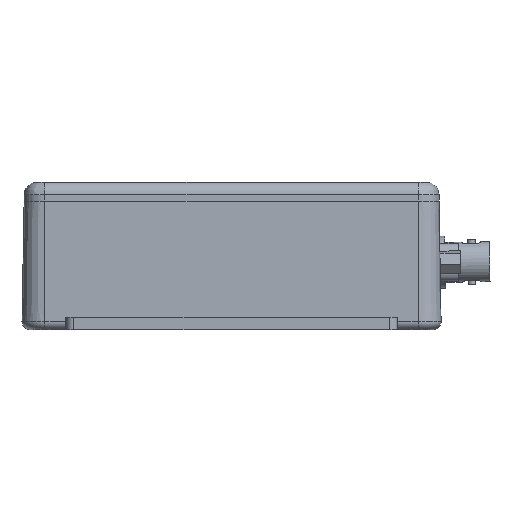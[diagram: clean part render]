
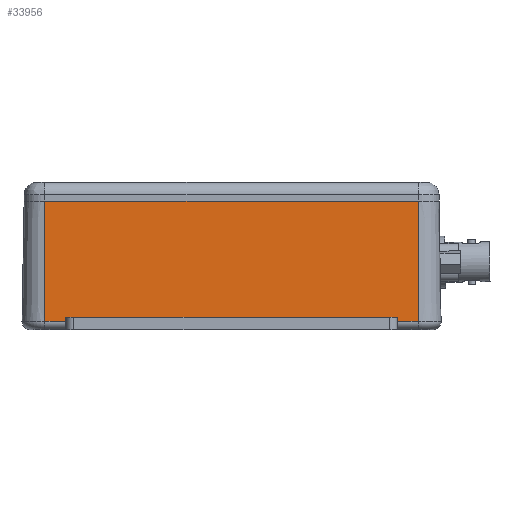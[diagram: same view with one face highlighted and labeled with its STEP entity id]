
A CAD part, left-side view. The second image highlights one B-rep face of the part: STEP entity #33956.
In plain terms, the highlighted planar face has unit normal (-1, 0, 0.018).
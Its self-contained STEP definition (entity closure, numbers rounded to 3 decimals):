
#3862=LINE('',#58030,#6702);
#4205=LINE('',#59684,#7045);
#4206=LINE('',#59686,#7046);
#4207=LINE('',#59687,#7047);
#4208=LINE('',#59689,#7048);
#4209=LINE('',#59691,#7049);
#4210=LINE('',#59693,#7050);
#4211=LINE('',#59694,#7051);
#6702=VECTOR('',#40832,10.);
#7045=VECTOR('',#42101,10.);
#7046=VECTOR('',#42102,10.);
#7047=VECTOR('',#42103,10.);
#7048=VECTOR('',#42104,10.);
#7049=VECTOR('',#42105,10.);
#7050=VECTOR('',#42106,10.);
#7051=VECTOR('',#42107,10.);
#8236=PLANE('',#35916);
#10489=FACE_OUTER_BOUND('',#12615,.T.);
#12615=EDGE_LOOP('',(#29139,#29140,#29141,#29142,#29143,#29144,#29145,#29146));
#15669=VERTEX_POINT('',#58023);
#15671=VERTEX_POINT('',#58029);
#16130=VERTEX_POINT('',#59682);
#16131=VERTEX_POINT('',#59683);
#16132=VERTEX_POINT('',#59685);
#16133=VERTEX_POINT('',#59688);
#16134=VERTEX_POINT('',#59690);
#16135=VERTEX_POINT('',#59692);
#19916=EDGE_CURVE('',#15671,#15669,#3862,.T.);
#20526=EDGE_CURVE('',#16130,#16131,#4205,.T.);
#20527=EDGE_CURVE('',#16132,#16131,#4206,.T.);
#20528=EDGE_CURVE('',#15671,#16132,#4207,.T.);
#20529=EDGE_CURVE('',#16133,#15669,#4208,.T.);
#20530=EDGE_CURVE('',#16134,#16133,#4209,.T.);
#20531=EDGE_CURVE('',#16134,#16135,#4210,.T.);
#20532=EDGE_CURVE('',#16135,#16130,#4211,.T.);
#29139=ORIENTED_EDGE('',*,*,#20526,.T.);
#29140=ORIENTED_EDGE('',*,*,#20527,.F.);
#29141=ORIENTED_EDGE('',*,*,#20528,.F.);
#29142=ORIENTED_EDGE('',*,*,#19916,.T.);
#29143=ORIENTED_EDGE('',*,*,#20529,.F.);
#29144=ORIENTED_EDGE('',*,*,#20530,.F.);
#29145=ORIENTED_EDGE('',*,*,#20531,.T.);
#29146=ORIENTED_EDGE('',*,*,#20532,.T.);
#33956=ADVANCED_FACE('',(#10489),#8236,.T.);
#35916=AXIS2_PLACEMENT_3D('',#59681,#42099,#42100);
#40832=DIRECTION('',(0.,1.,0.));
#42099=DIRECTION('center_axis',(-1.,0.,0.017));
#42100=DIRECTION('ref_axis',(0.017,0.,1.));
#42101=DIRECTION('',(-0.017,0.,-1.));
#42102=DIRECTION('',(0.,1.,0.));
#42103=DIRECTION('',(-0.017,0.,-1.));
#42104=DIRECTION('',(0.017,0.,1.));
#42105=DIRECTION('',(0.,1.,0.));
#42106=DIRECTION('',(0.017,0.,1.));
#42107=DIRECTION('',(0.,-1.,0.));
#58023=CARTESIAN_POINT('',(-60.,45.,0.));
#58029=CARTESIAN_POINT('',(-60.,-45.,0.));
#58030=CARTESIAN_POINT('',(-60.,-50.,0.));
#59681=CARTESIAN_POINT('Origin',(-60.,50.,0.));
#59682=CARTESIAN_POINT('',(-60.489,-40.,-28.));
#59683=CARTESIAN_POINT('',(-60.506,-40.,-28.965));
#59684=CARTESIAN_POINT('',(-60.27,-40.,-15.482));
#59685=CARTESIAN_POINT('',(-60.506,-45.,-28.965));
#59686=CARTESIAN_POINT('',(-60.506,25.,-28.965));
#59687=CARTESIAN_POINT('',(-60.,-45.,0.));
#59688=CARTESIAN_POINT('',(-60.506,45.,-28.965));
#59689=CARTESIAN_POINT('',(-60.,45.,0.));
#59690=CARTESIAN_POINT('',(-60.506,40.,-28.965));
#59691=CARTESIAN_POINT('',(-60.506,25.,-28.965));
#59692=CARTESIAN_POINT('',(-60.489,40.,-28.));
#59693=CARTESIAN_POINT('',(-60.272,40.,-15.609));
#59694=CARTESIAN_POINT('',(-60.489,25.,-28.));
